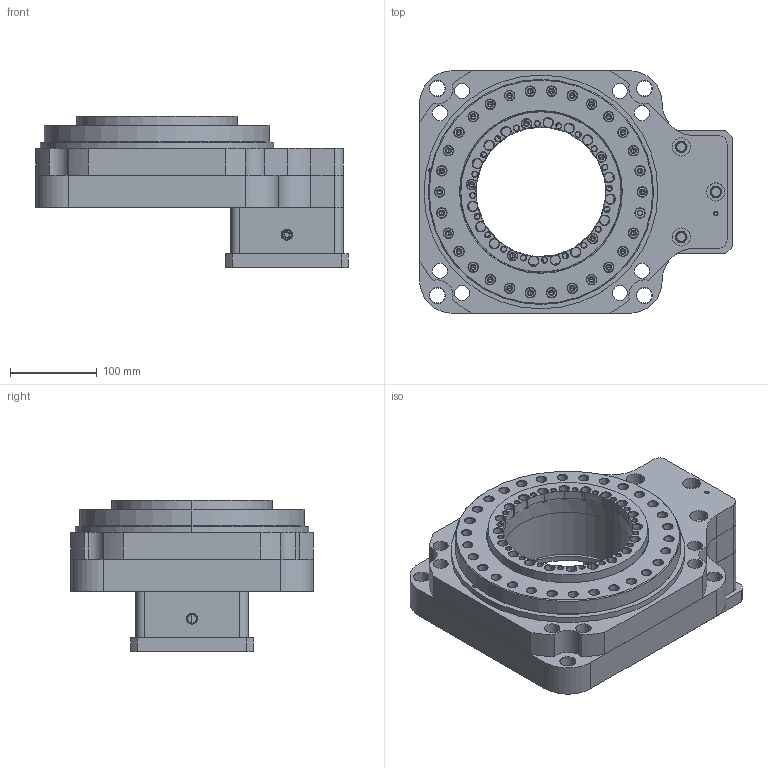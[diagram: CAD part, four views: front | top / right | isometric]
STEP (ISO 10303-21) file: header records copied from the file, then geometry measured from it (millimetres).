
FILE_DESCRIPTION (( 'STEP AP214' ), '1' );
FILE_NAME ('马拉力中空旋转平台MAK280(1-2KW伺服接口).step', '2024-05-09T11:11:44', ( '' ), ( '' ), 'SwSTEP 2.0', 'SolidWorks 2010', '' );
FILE_SCHEMA (( 'AUTOMOTIVE_DESIGN' ));
Length unit declared in the file: millimetre
Products named in the file (1): 马拉力中空旋转平台MAK280(1-2KW伺服接口)
Bounding box: 361 x 280 x 174.5 mm (x, y, z)
Volume: 5045821.4 mm3; surface area: 887860.5 mm2
Topology: 8 solids, 8 shells, 2371 faces, 5923 edges, 3635 vertices
Faces by surface type: cylinder 1080, cone 784, plane 260, bspline 247
Entity records: 102013 total; most frequent: CARTESIAN_POINT 44058, DIRECTION 12331, ORIENTED_EDGE 11482, EDGE_CURVE 5741, AXIS2_PLACEMENT_3D 5040, VERTEX_POINT 3635, CIRCLE 2915, EDGE_LOOP 2898
